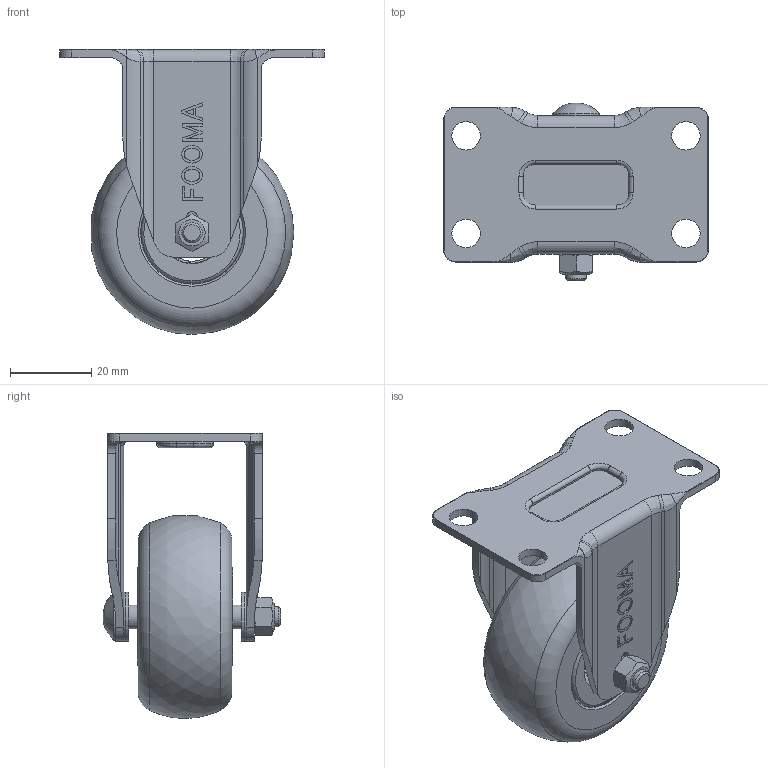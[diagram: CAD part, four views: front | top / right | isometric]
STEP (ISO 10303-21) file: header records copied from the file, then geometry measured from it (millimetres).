
FILE_DESCRIPTION(/* description */ (''),/* implementation_level */ '2;1');
FILE_NAME(/* name */ 'C:\Users\admin\Desktop\JYS\14.제품도면\GL-SERIES\GL-50-ARF-EUS-HP.stp',/* time_stamp */ '2024-01-11T14:33:58+09:00',/* author */ ('admin'),/* organization */ (''),/* preprocessor_version */ 'ST-DEVELOPER v18.1',/* originating_system */ 'Autodesk Inventor 2021',/* authorisation */ '');
FILE_SCHEMA (('AUTOMOTIVE_DESIGN { 1 0 10303 214 3 1 1 }'));
Length unit declared in the file: millimetre
Products named in the file (3): GL-50-ARF-EUS; GL-50-ARF; GDS-50_WHEEL_Sub Assy_Rev01
Assembly tree (2 placements, depth 2):
  GL-50-ARF-EUS
    GL-50-ARF
    GDS-50_WHEEL_Sub Assy_Rev01
Bounding box: 65 x 43.54 x 70 mm (x, y, z)
Volume: 48947.4 mm3; surface area: 22351.6 mm2
Topology: 2 solids, 2 shells, 367 faces, 969 edges, 632 vertices
Faces by surface type: plane 149, bspline 92, cylinder 84, torus 24, cone 18
Full cylindrical faces by diameter (mm): 5 x1, 6 x1, 7 x4, 11.5 x1, 25 x2
Entity records: 14179 total; most frequent: CARTESIAN_POINT 5356, ORIENTED_EDGE 1936, DIRECTION 1582, EDGE_CURVE 968, VERTEX_POINT 632, AXIS2_PLACEMENT_3D 539, LINE 504, VECTOR 504
